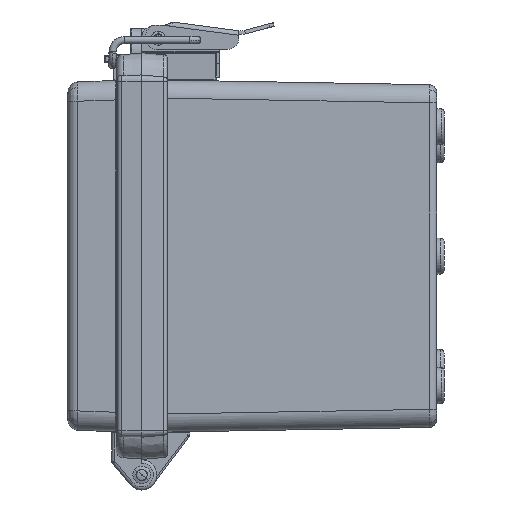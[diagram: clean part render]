
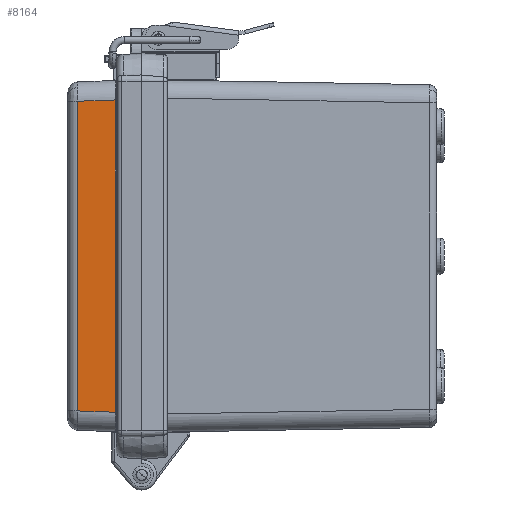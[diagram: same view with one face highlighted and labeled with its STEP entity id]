
A CAD part, left-side view. The second image highlights one B-rep face of the part: STEP entity #8164.
In plain terms, the highlighted planar face has unit normal (-0.999, 0.035, 0) as drawn and (0.999, -0.035, 0) by its records, which use the part's own axes.
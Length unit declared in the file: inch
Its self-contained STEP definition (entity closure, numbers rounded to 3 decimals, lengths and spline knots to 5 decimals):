
#291 = VECTOR ( 'NONE', #64729, 39.37008 ) ;
#4740 = LINE ( 'NONE', #32038, #5586 ) ;
#5586 = VECTOR ( 'NONE', #44603, 39.37008 ) ;
#6838 = CARTESIAN_POINT ( 'NONE',  ( 4.81735, -0.2825, 1.66243 ) ) ;
#7817 = ORIENTED_EDGE ( 'NONE', *, *, #32517, .T. ) ;
#8164 = ADVANCED_FACE ( 'NONE', ( #13762 ), #62540, .T. ) ;
#8716 = CARTESIAN_POINT ( 'NONE',  ( 4.8229, -0.12371, -1.66797 ) ) ;
#9163 = DIRECTION ( 'NONE',  ( 0.035, 0.999, -0.035 ) ) ;
#10028 = CARTESIAN_POINT ( 'NONE',  ( 4.80347, -0.68005, 1.64854 ) ) ;
#13762 = FACE_OUTER_BOUND ( 'NONE', #77338, .T. ) ;
#14496 = VERTEX_POINT ( 'NONE', #10028 ) ;
#14635 = VERTEX_POINT ( 'NONE', #6838 ) ;
#15318 = CARTESIAN_POINT ( 'NONE',  ( 4.80347, -0.68005, -1.64854 ) ) ;
#15715 = AXIS2_PLACEMENT_3D ( 'NONE', #20497, #28070, #82667 ) ;
#16690 = LINE ( 'NONE', #35534, #57419 ) ;
#19609 = CARTESIAN_POINT ( 'NONE',  ( 4.81735, -0.2825, -1.66243 ) ) ;
#20497 = CARTESIAN_POINT ( 'NONE',  ( 4.82722, 0., 1.87902 ) ) ;
#21057 = EDGE_CURVE ( 'NONE', #27463, #14635, #16690, .T. ) ;
#26174 = EDGE_CURVE ( 'NONE', #14635, #14496, #85291, .T. ) ;
#27463 = VERTEX_POINT ( 'NONE', #19609 ) ;
#28070 = DIRECTION ( 'NONE',  ( 0.999, -0.035, 0. ) ) ;
#32038 = CARTESIAN_POINT ( 'NONE',  ( 4.80347, -0.68005, -1.64488 ) ) ;
#32517 = EDGE_CURVE ( 'NONE', #49524, #27463, #42751, .T. ) ;
#35534 = CARTESIAN_POINT ( 'NONE',  ( 4.81735, -0.2825, 1.66276 ) ) ;
#39930 = EDGE_CURVE ( 'NONE', #14496, #49524, #4740, .T. ) ;
#42751 = LINE ( 'NONE', #8716, #86491 ) ;
#43578 = DIRECTION ( 'NONE',  ( 0., 0., 1. ) ) ;
#44603 = DIRECTION ( 'NONE',  ( 0., 0., -1. ) ) ;
#49524 = VERTEX_POINT ( 'NONE', #15318 ) ;
#57419 = VECTOR ( 'NONE', #43578, 39.37008 ) ;
#58730 = ORIENTED_EDGE ( 'NONE', *, *, #26174, .T. ) ;
#62540 = PLANE ( 'NONE',  #15715 ) ;
#64729 = DIRECTION ( 'NONE',  ( -0.035, -0.999, -0.035 ) ) ;
#69226 = ORIENTED_EDGE ( 'NONE', *, *, #39930, .T. ) ;
#77338 = EDGE_LOOP ( 'NONE', ( #7817, #80309, #58730, #69226 ) ) ;
#78569 = CARTESIAN_POINT ( 'NONE',  ( 4.82747, 0.0072, 1.67254 ) ) ;
#80309 = ORIENTED_EDGE ( 'NONE', *, *, #21057, .T. ) ;
#82667 = DIRECTION ( 'NONE',  ( 0.035, 0.999, 0. ) ) ;
#85291 = LINE ( 'NONE', #78569, #291 ) ;
#86491 = VECTOR ( 'NONE', #9163, 39.37008 ) ;
